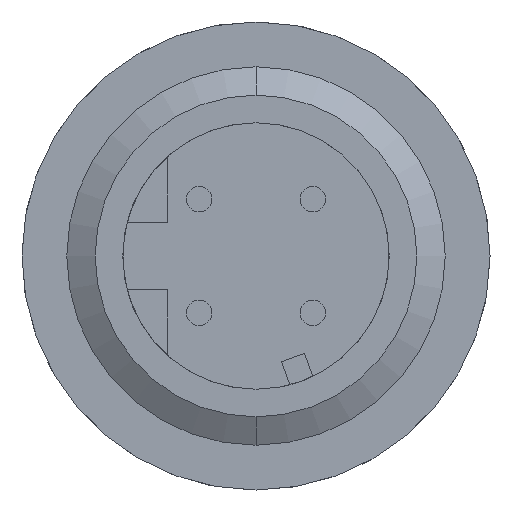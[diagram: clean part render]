
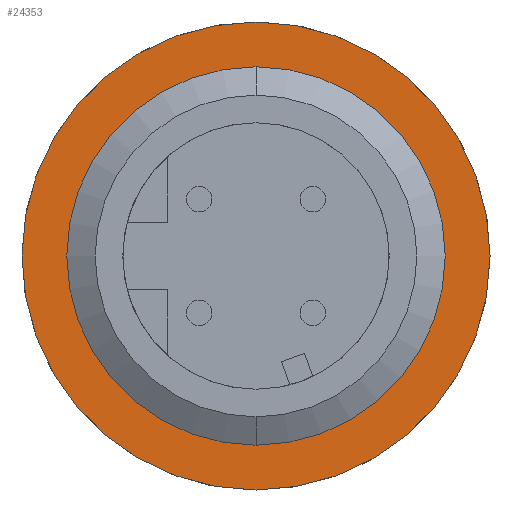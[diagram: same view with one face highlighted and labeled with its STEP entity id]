
A CAD part, front view. The second image highlights one B-rep face of the part: STEP entity #24353.
In plain terms, the highlighted planar face has unit normal (0, -1, 0).
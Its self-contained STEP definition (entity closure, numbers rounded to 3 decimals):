
#14704=CARTESIAN_POINT('',(0.,-6.276,0.));
#14705=DIRECTION('',(0.,1.,0.));
#14706=DIRECTION('',(0.,0.,1.));
#14707=AXIS2_PLACEMENT_3D('',#14704,#14705,#14706);
#14709=CARTESIAN_POINT('',(0.,-6.276,0.));
#14710=DIRECTION('',(0.,1.,0.));
#14711=DIRECTION('',(0.,0.,-1.));
#14712=AXIS2_PLACEMENT_3D('',#14709,#14710,#14711);
#14714=CARTESIAN_POINT('',(0.,-6.276,0.));
#14715=DIRECTION('',(0.,-1.,0.));
#14716=DIRECTION('',(0.,0.,1.));
#14717=AXIS2_PLACEMENT_3D('',#14714,#14715,#14716);
#14719=CARTESIAN_POINT('',(0.,-6.276,0.));
#14720=DIRECTION('',(0.,-1.,0.));
#14721=DIRECTION('',(0.,0.,-1.));
#14722=AXIS2_PLACEMENT_3D('',#14719,#14720,#14721);
#17206=CARTESIAN_POINT('',(0.,-6.276,-7.25));
#17207=CARTESIAN_POINT('',(0.,-6.276,7.25));
#17208=VERTEX_POINT('',#17206);
#17209=VERTEX_POINT('',#17207);
#17210=CARTESIAN_POINT('',(0.,-6.276,5.096));
#17211=CARTESIAN_POINT('',(0.,-6.276,-5.096));
#17212=VERTEX_POINT('',#17210);
#17213=VERTEX_POINT('',#17211);
#24337=CARTESIAN_POINT('',(0.,-6.276,0.));
#24338=DIRECTION('',(0.,1.,0.));
#24339=DIRECTION('',(0.,0.,-1.));
#24340=AXIS2_PLACEMENT_3D('',#24337,#24338,#24339);
#24341=PLANE('',#24340);
#24343=ORIENTED_EDGE('',*,*,#24342,.T.);
#24344=ORIENTED_EDGE('',*,*,#24327,.T.);
#24345=EDGE_LOOP('',(#24343,#24344));
#24346=FACE_OUTER_BOUND('',#24345,.F.);
#24348=ORIENTED_EDGE('',*,*,#24347,.T.);
#24350=ORIENTED_EDGE('',*,*,#24349,.T.);
#24351=EDGE_LOOP('',(#24348,#24350));
#24352=FACE_BOUND('',#24351,.F.);
#24353=ADVANCED_FACE('',(#24346,#24352),#24341,.F.);
#14708=CIRCLE('',#14707,7.25);
#14713=CIRCLE('',#14712,7.25);
#14718=CIRCLE('',#14717,5.096);
#14723=CIRCLE('',#14722,5.096);
#24327=EDGE_CURVE('',#17208,#17209,#14713,.T.);
#24342=EDGE_CURVE('',#17209,#17208,#14708,.T.);
#24347=EDGE_CURVE('',#17212,#17213,#14718,.T.);
#24349=EDGE_CURVE('',#17213,#17212,#14723,.T.);
